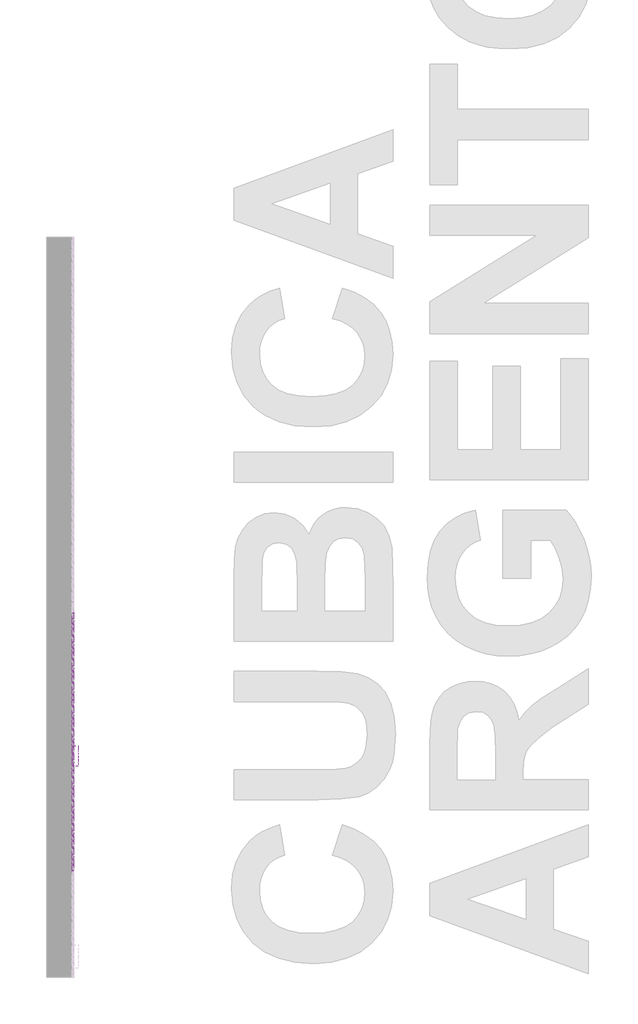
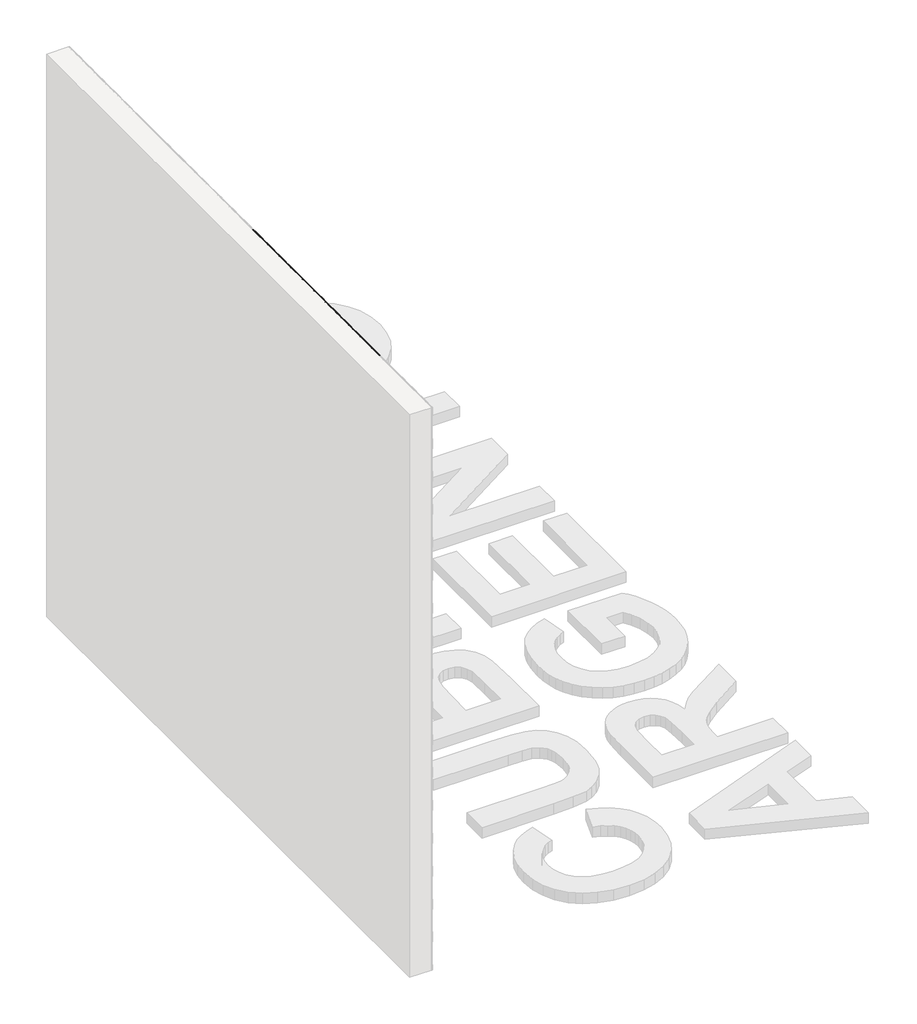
# One storey, part 12 of 121: 116 proxies.
"""IFC4 building model written with IfcOpenShell, lengths in millimetres."""

from ifc_helpers import new_model, si_unit, frame, origin, place, context, project, spatial, polyline, outline, extrude, transform, mapped, element, save
from components import generic_models_b2b2c5c1, generic_models_9bf73f6f, generic_models_5d175859, generic_models_65d4feed, generic_models_3c364290, generic_models_b652511d

model = new_model("IFC4")

# Units and contexts
model_context = context("Model", 3, world=origin())
ifc_project = project(units=[si_unit("LENGTHUNIT", "METRE", prefix="MILLI")], contexts=[model_context])

# Site, building, storey
site = spatial("IfcSite", under=ifc_project)
building = spatial("IfcBuilding", under=site)
storey = spatial("IfcBuildingStorey", under=building, Name="PORTOBELLO - SHOWROOM", Elevation=0.0)

# Proxies
placement = place(None, origin())
generic_models_shape = generic_models_b2b2c5c1(model_context)
element("IfcBuildingElementProxy", 1, Name="PBSHOP - CUBICA ARGENTO 4,8X8,3 : CUBICA ARGENTO - POSIÇÃO 01", ObjectType="PBSHOP - CUBICA ARGENTO 4,8X8,3 : CUBICA ARGENTO - POSIÇÃO 01", at=placement, inside=storey, context=model_context, shape_type="MappedRepresentation", body=[
    mapped(generic_models_shape, transform((150369.5341846, -4950.0239465, 39.4221668), x_axis=(0.0, 1.0, 0.0), y_axis=(0.0, 0.0, 1.0), z_axis=(1.0, 0.0, 0.0))),
])
element("IfcBuildingElementProxy", 2, Name="PBSHOP - CUBICA ARGENTO 4,8X8,3 : CUBICA ARGENTO - POSIÇÃO 01", ObjectType="PBSHOP - CUBICA ARGENTO 4,8X8,3 : CUBICA ARGENTO - POSIÇÃO 01", at=placement, inside=storey, context=model_context, shape_type="MappedRepresentation", body=[
    mapped(generic_models_shape, transform((150369.5341846, -4859.1846773, 39.4221668), x_axis=(0.0, 1.0, 0.0), y_axis=(0.0, 0.0, 1.0), z_axis=(1.0, 0.0, 0.0))),
])
element("IfcBuildingElementProxy", 3, Name="PBSHOP - CUBICA ARGENTO 4,8X8,3 : CUBICA ARGENTO - POSIÇÃO 01", ObjectType="PBSHOP - CUBICA ARGENTO 4,8X8,3 : CUBICA ARGENTO - POSIÇÃO 01", at=placement, inside=storey, context=model_context, shape_type="MappedRepresentation", body=[
    mapped(generic_models_shape, transform((150369.5341846, -5949.2559082, 2565.3305948), x_axis=(0.0, 1.0, 0.0), y_axis=(0.0, 0.0, 1.0), z_axis=(1.0, 0.0, 0.0))),
])
element("IfcBuildingElementProxy", 4, Name="PBSHOP - CUBICA ARGENTO 4,8X8,3 : CUBICA ARGENTO - POSIÇÃO 01", ObjectType="PBSHOP - CUBICA ARGENTO 4,8X8,3 : CUBICA ARGENTO - POSIÇÃO 01", at=placement, inside=storey, context=model_context, shape_type="MappedRepresentation", body=[
    mapped(generic_models_shape, transform((150369.5341846, -5858.416639, 2565.3305948), x_axis=(0.0, 1.0, 0.0), y_axis=(0.0, 0.0, 1.0), z_axis=(1.0, 0.0, 0.0))),
])
element("IfcBuildingElementProxy", 5, Name="PBSHOP - CUBICA ARGENTO 4,8X8,3 : CUBICA ARGENTO - POSIÇÃO 01", ObjectType="PBSHOP - CUBICA ARGENTO 4,8X8,3 : CUBICA ARGENTO - POSIÇÃO 01", at=placement, inside=storey, context=model_context, shape_type="MappedRepresentation", body=[
    mapped(generic_models_shape, transform((150369.5341846, -5767.5773697, 2565.3305948), x_axis=(0.0, 1.0, 0.0), y_axis=(0.0, 0.0, 1.0), z_axis=(1.0, 0.0, 0.0))),
])
element("IfcBuildingElementProxy", 6, Name="PBSHOP - CUBICA ARGENTO 4,8X8,3 : CUBICA ARGENTO - POSIÇÃO 01", ObjectType="PBSHOP - CUBICA ARGENTO 4,8X8,3 : CUBICA ARGENTO - POSIÇÃO 01", at=placement, inside=storey, context=model_context, shape_type="MappedRepresentation", body=[
    mapped(generic_models_shape, transform((150369.5341846, -5676.7381005, 2565.3305948), x_axis=(0.0, 1.0, 0.0), y_axis=(0.0, 0.0, 1.0), z_axis=(1.0, 0.0, 0.0))),
])
element("IfcBuildingElementProxy", 7, Name="PBSHOP - CUBICA ARGENTO 4,8X8,3 : CUBICA ARGENTO - POSIÇÃO 01", ObjectType="PBSHOP - CUBICA ARGENTO 4,8X8,3 : CUBICA ARGENTO - POSIÇÃO 01", at=placement, inside=storey, context=model_context, shape_type="MappedRepresentation", body=[
    mapped(generic_models_shape, transform((150369.5341846, -5585.8988312, 2565.3305948), x_axis=(0.0, 1.0, 0.0), y_axis=(0.0, 0.0, 1.0), z_axis=(1.0, 0.0, 0.0))),
])
element("IfcBuildingElementProxy", 8, Name="PBSHOP - CUBICA ARGENTO 4,8X8,3 : CUBICA ARGENTO - POSIÇÃO 01", ObjectType="PBSHOP - CUBICA ARGENTO 4,8X8,3 : CUBICA ARGENTO - POSIÇÃO 01", at=placement, inside=storey, context=model_context, shape_type="MappedRepresentation", body=[
    mapped(generic_models_shape, transform((150369.5341846, -5495.059562, 2565.3305948), x_axis=(0.0, 1.0, 0.0), y_axis=(0.0, 0.0, 1.0), z_axis=(1.0, 0.0, 0.0))),
])
element("IfcBuildingElementProxy", 9, Name="PBSHOP - CUBICA ARGENTO 4,8X8,3 : CUBICA ARGENTO - POSIÇÃO 01", ObjectType="PBSHOP - CUBICA ARGENTO 4,8X8,3 : CUBICA ARGENTO - POSIÇÃO 01", at=placement, inside=storey, context=model_context, shape_type="MappedRepresentation", body=[
    mapped(generic_models_shape, transform((150369.5341846, -5404.2202927, 2565.3305948), x_axis=(0.0, 1.0, 0.0), y_axis=(0.0, 0.0, 1.0), z_axis=(1.0, 0.0, 0.0))),
])
element("IfcBuildingElementProxy", 10, Name="PBSHOP - CUBICA ARGENTO 4,8X8,3 : CUBICA ARGENTO - POSIÇÃO 01", ObjectType="PBSHOP - CUBICA ARGENTO 4,8X8,3 : CUBICA ARGENTO - POSIÇÃO 01", at=placement, inside=storey, context=model_context, shape_type="MappedRepresentation", body=[
    mapped(generic_models_shape, transform((150369.5341846, -5313.3810235, 2565.3305948), x_axis=(0.0, 1.0, 0.0), y_axis=(0.0, 0.0, 1.0), z_axis=(1.0, 0.0, 0.0))),
])
element("IfcBuildingElementProxy", 11, Name="PBSHOP - CUBICA ARGENTO 4,8X8,3 : CUBICA ARGENTO - POSIÇÃO 01", ObjectType="PBSHOP - CUBICA ARGENTO 4,8X8,3 : CUBICA ARGENTO - POSIÇÃO 01", at=placement, inside=storey, context=model_context, shape_type="MappedRepresentation", body=[
    mapped(generic_models_shape, transform((150369.5341846, -5222.5417543, 2565.3305948), x_axis=(0.0, 1.0, 0.0), y_axis=(0.0, 0.0, 1.0), z_axis=(1.0, 0.0, 0.0))),
])
element("IfcBuildingElementProxy", 12, Name="PBSHOP - CUBICA ARGENTO 4,8X8,3 : CUBICA ARGENTO - POSIÇÃO 01", ObjectType="PBSHOP - CUBICA ARGENTO 4,8X8,3 : CUBICA ARGENTO - POSIÇÃO 01", at=placement, inside=storey, context=model_context, shape_type="MappedRepresentation", body=[
    mapped(generic_models_shape, transform((150369.5341846, -5131.702485, 2565.3305948), x_axis=(0.0, 1.0, 0.0), y_axis=(0.0, 0.0, 1.0), z_axis=(1.0, 0.0, 0.0))),
])
element("IfcBuildingElementProxy", 13, Name="PBSHOP - CUBICA ARGENTO 4,8X8,3 : CUBICA ARGENTO - POSIÇÃO 01", ObjectType="PBSHOP - CUBICA ARGENTO 4,8X8,3 : CUBICA ARGENTO - POSIÇÃO 01", at=placement, inside=storey, context=model_context, shape_type="MappedRepresentation", body=[
    mapped(generic_models_shape, transform((150369.5341846, -5040.8632158, 2565.3305948), x_axis=(0.0, 1.0, 0.0), y_axis=(0.0, 0.0, 1.0), z_axis=(1.0, 0.0, 0.0))),
])
element("IfcBuildingElementProxy", 14, Name="PBSHOP - CUBICA ARGENTO 4,8X8,3 : CUBICA ARGENTO - POSIÇÃO 01", ObjectType="PBSHOP - CUBICA ARGENTO 4,8X8,3 : CUBICA ARGENTO - POSIÇÃO 01", at=placement, inside=storey, context=model_context, shape_type="MappedRepresentation", body=[
    mapped(generic_models_shape, transform((150369.5341846, -5994.6755428, 2644.2652332), x_axis=(0.0, 1.0, 0.0), y_axis=(0.0, 0.0, 1.0), z_axis=(1.0, 0.0, 0.0))),
])
element("IfcBuildingElementProxy", 15, Name="PBSHOP - CUBICA ARGENTO 4,8X8,3 : CUBICA ARGENTO - POSIÇÃO 01", ObjectType="PBSHOP - CUBICA ARGENTO 4,8X8,3 : CUBICA ARGENTO - POSIÇÃO 01", at=placement, inside=storey, context=model_context, shape_type="MappedRepresentation", body=[
    mapped(generic_models_shape, transform((150369.5341846, -5903.8362736, 2644.2652332), x_axis=(0.0, 1.0, 0.0), y_axis=(0.0, 0.0, 1.0), z_axis=(1.0, 0.0, 0.0))),
])
element("IfcBuildingElementProxy", 16, Name="PBSHOP - CUBICA ARGENTO 4,8X8,3 : CUBICA ARGENTO - POSIÇÃO 01", ObjectType="PBSHOP - CUBICA ARGENTO 4,8X8,3 : CUBICA ARGENTO - POSIÇÃO 01", at=placement, inside=storey, context=model_context, shape_type="MappedRepresentation", body=[
    mapped(generic_models_shape, transform((150369.5341846, -5812.9970043, 2644.2652332), x_axis=(0.0, 1.0, 0.0), y_axis=(0.0, 0.0, 1.0), z_axis=(1.0, 0.0, 0.0))),
])
element("IfcBuildingElementProxy", 17, Name="PBSHOP - CUBICA ARGENTO 4,8X8,3 : CUBICA ARGENTO - POSIÇÃO 01", ObjectType="PBSHOP - CUBICA ARGENTO 4,8X8,3 : CUBICA ARGENTO - POSIÇÃO 01", at=placement, inside=storey, context=model_context, shape_type="MappedRepresentation", body=[
    mapped(generic_models_shape, transform((150369.5341846, -5722.1577351, 2644.2652332), x_axis=(0.0, 1.0, 0.0), y_axis=(0.0, 0.0, 1.0), z_axis=(1.0, 0.0, 0.0))),
])
element("IfcBuildingElementProxy", 18, Name="PBSHOP - CUBICA ARGENTO 4,8X8,3 : CUBICA ARGENTO - POSIÇÃO 01", ObjectType="PBSHOP - CUBICA ARGENTO 4,8X8,3 : CUBICA ARGENTO - POSIÇÃO 01", at=placement, inside=storey, context=model_context, shape_type="MappedRepresentation", body=[
    mapped(generic_models_shape, transform((150369.5341846, -5631.3184659, 2644.2652332), x_axis=(0.0, 1.0, 0.0), y_axis=(0.0, 0.0, 1.0), z_axis=(1.0, 0.0, 0.0))),
])
element("IfcBuildingElementProxy", 19, Name="PBSHOP - CUBICA ARGENTO 4,8X8,3 : CUBICA ARGENTO - POSIÇÃO 01", ObjectType="PBSHOP - CUBICA ARGENTO 4,8X8,3 : CUBICA ARGENTO - POSIÇÃO 01", at=placement, inside=storey, context=model_context, shape_type="MappedRepresentation", body=[
    mapped(generic_models_shape, transform((150369.5341846, -5540.4791966, 2644.2652332), x_axis=(0.0, 1.0, 0.0), y_axis=(0.0, 0.0, 1.0), z_axis=(1.0, 0.0, 0.0))),
])
element("IfcBuildingElementProxy", 20, Name="PBSHOP - CUBICA ARGENTO 4,8X8,3 : CUBICA ARGENTO - POSIÇÃO 01", ObjectType="PBSHOP - CUBICA ARGENTO 4,8X8,3 : CUBICA ARGENTO - POSIÇÃO 01", at=placement, inside=storey, context=model_context, shape_type="MappedRepresentation", body=[
    mapped(generic_models_shape, transform((150369.5341846, -5449.6399274, 2644.2652332), x_axis=(0.0, 1.0, 0.0), y_axis=(0.0, 0.0, 1.0), z_axis=(1.0, 0.0, 0.0))),
])
element("IfcBuildingElementProxy", 21, Name="PBSHOP - CUBICA ARGENTO 4,8X8,3 : CUBICA ARGENTO - POSIÇÃO 01", ObjectType="PBSHOP - CUBICA ARGENTO 4,8X8,3 : CUBICA ARGENTO - POSIÇÃO 01", at=placement, inside=storey, context=model_context, shape_type="MappedRepresentation", body=[
    mapped(generic_models_shape, transform((150369.5341846, -5358.8006581, 2644.2652332), x_axis=(0.0, 1.0, 0.0), y_axis=(0.0, 0.0, 1.0), z_axis=(1.0, 0.0, 0.0))),
])
element("IfcBuildingElementProxy", 22, Name="PBSHOP - CUBICA ARGENTO 4,8X8,3 : CUBICA ARGENTO - POSIÇÃO 01", ObjectType="PBSHOP - CUBICA ARGENTO 4,8X8,3 : CUBICA ARGENTO - POSIÇÃO 01", at=placement, inside=storey, context=model_context, shape_type="MappedRepresentation", body=[
    mapped(generic_models_shape, transform((150369.5341846, -5267.9613889, 2644.2652332), x_axis=(0.0, 1.0, 0.0), y_axis=(0.0, 0.0, 1.0), z_axis=(1.0, 0.0, 0.0))),
])
element("IfcBuildingElementProxy", 23, Name="PBSHOP - CUBICA ARGENTO 4,8X8,3 : CUBICA ARGENTO - POSIÇÃO 01", ObjectType="PBSHOP - CUBICA ARGENTO 4,8X8,3 : CUBICA ARGENTO - POSIÇÃO 01", at=placement, inside=storey, context=model_context, shape_type="MappedRepresentation", body=[
    mapped(generic_models_shape, transform((150369.5341846, -5177.1221196, 2644.2652332), x_axis=(0.0, 1.0, 0.0), y_axis=(0.0, 0.0, 1.0), z_axis=(1.0, 0.0, 0.0))),
])
element("IfcBuildingElementProxy", 24, Name="PBSHOP - CUBICA ARGENTO 4,8X8,3 : CUBICA ARGENTO - POSIÇÃO 01", ObjectType="PBSHOP - CUBICA ARGENTO 4,8X8,3 : CUBICA ARGENTO - POSIÇÃO 01", at=placement, inside=storey, context=model_context, shape_type="MappedRepresentation", body=[
    mapped(generic_models_shape, transform((150369.5341846, -5086.2828504, 2644.2652332), x_axis=(0.0, 1.0, 0.0), y_axis=(0.0, 0.0, 1.0), z_axis=(1.0, 0.0, 0.0))),
])
generic_models_2_shape = generic_models_9bf73f6f(model_context)
element("IfcBuildingElementProxy", 25, Name="PBSHOP - CUBICA ARGENTO 4,8X8,3 : CUBICA ARGENTO - POSIÇÃO 03", ObjectType="PBSHOP - CUBICA ARGENTO 4,8X8,3 : CUBICA ARGENTO - POSIÇÃO 03", at=placement, inside=storey, context=model_context, shape_type="MappedRepresentation", body=[
    mapped(generic_models_2_shape, transform((150369.5341846, -5926.5439317, 2446.8874268), x_axis=(0.0, 1.0, 0.0), y_axis=(0.0, 0.0, 1.0), z_axis=(1.0, 0.0, 0.0))),
])
element("IfcBuildingElementProxy", 26, Name="PBSHOP - CUBICA ARGENTO 4,8X8,3 : CUBICA ARGENTO - POSIÇÃO 03", ObjectType="PBSHOP - CUBICA ARGENTO 4,8X8,3 : CUBICA ARGENTO - POSIÇÃO 03", at=placement, inside=storey, context=model_context, shape_type="MappedRepresentation", body=[
    mapped(generic_models_2_shape, transform((150369.5341846, -5835.7046625, 2446.8874268), x_axis=(0.0, 1.0, 0.0), y_axis=(0.0, 0.0, 1.0), z_axis=(1.0, 0.0, 0.0))),
])
element("IfcBuildingElementProxy", 27, Name="PBSHOP - CUBICA ARGENTO 4,8X8,3 : CUBICA ARGENTO - POSIÇÃO 03", ObjectType="PBSHOP - CUBICA ARGENTO 4,8X8,3 : CUBICA ARGENTO - POSIÇÃO 03", at=placement, inside=storey, context=model_context, shape_type="MappedRepresentation", body=[
    mapped(generic_models_2_shape, transform((150369.5341846, -5744.8653932, 2446.8874268), x_axis=(0.0, 1.0, 0.0), y_axis=(0.0, 0.0, 1.0), z_axis=(1.0, 0.0, 0.0))),
])
element("IfcBuildingElementProxy", 28, Name="PBSHOP - CUBICA ARGENTO 4,8X8,3 : CUBICA ARGENTO - POSIÇÃO 03", ObjectType="PBSHOP - CUBICA ARGENTO 4,8X8,3 : CUBICA ARGENTO - POSIÇÃO 03", at=placement, inside=storey, context=model_context, shape_type="MappedRepresentation", body=[
    mapped(generic_models_2_shape, transform((150369.5341846, -5654.026124, 2446.8874268), x_axis=(0.0, 1.0, 0.0), y_axis=(0.0, 0.0, 1.0), z_axis=(1.0, 0.0, 0.0))),
])
element("IfcBuildingElementProxy", 29, Name="PBSHOP - CUBICA ARGENTO 4,8X8,3 : CUBICA ARGENTO - POSIÇÃO 03", ObjectType="PBSHOP - CUBICA ARGENTO 4,8X8,3 : CUBICA ARGENTO - POSIÇÃO 03", at=placement, inside=storey, context=model_context, shape_type="MappedRepresentation", body=[
    mapped(generic_models_2_shape, transform((150369.5341846, -5563.1868548, 2446.8874268), x_axis=(0.0, 1.0, 0.0), y_axis=(0.0, 0.0, 1.0), z_axis=(1.0, 0.0, 0.0))),
])
element("IfcBuildingElementProxy", 30, Name="PBSHOP - CUBICA ARGENTO 4,8X8,3 : CUBICA ARGENTO - POSIÇÃO 03", ObjectType="PBSHOP - CUBICA ARGENTO 4,8X8,3 : CUBICA ARGENTO - POSIÇÃO 03", at=placement, inside=storey, context=model_context, shape_type="MappedRepresentation", body=[
    mapped(generic_models_2_shape, transform((150369.5341846, -5472.3475855, 2446.8874268), x_axis=(0.0, 1.0, 0.0), y_axis=(0.0, 0.0, 1.0), z_axis=(1.0, 0.0, 0.0))),
])
element("IfcBuildingElementProxy", 31, Name="PBSHOP - CUBICA ARGENTO 4,8X8,3 : CUBICA ARGENTO - POSIÇÃO 03", ObjectType="PBSHOP - CUBICA ARGENTO 4,8X8,3 : CUBICA ARGENTO - POSIÇÃO 03", at=placement, inside=storey, context=model_context, shape_type="MappedRepresentation", body=[
    mapped(generic_models_2_shape, transform((150369.5341846, -5381.5083163, 2446.8874268), x_axis=(0.0, 1.0, 0.0), y_axis=(0.0, 0.0, 1.0), z_axis=(1.0, 0.0, 0.0))),
])
element("IfcBuildingElementProxy", 32, Name="PBSHOP - CUBICA ARGENTO 4,8X8,3 : CUBICA ARGENTO - POSIÇÃO 03", ObjectType="PBSHOP - CUBICA ARGENTO 4,8X8,3 : CUBICA ARGENTO - POSIÇÃO 03", at=placement, inside=storey, context=model_context, shape_type="MappedRepresentation", body=[
    mapped(generic_models_2_shape, transform((150369.5341846, -5290.669047, 2446.8874268), x_axis=(0.0, 1.0, 0.0), y_axis=(0.0, 0.0, 1.0), z_axis=(1.0, 0.0, 0.0))),
])
element("IfcBuildingElementProxy", 33, Name="PBSHOP - CUBICA ARGENTO 4,8X8,3 : CUBICA ARGENTO - POSIÇÃO 03", ObjectType="PBSHOP - CUBICA ARGENTO 4,8X8,3 : CUBICA ARGENTO - POSIÇÃO 03", at=placement, inside=storey, context=model_context, shape_type="MappedRepresentation", body=[
    mapped(generic_models_2_shape, transform((150369.5341846, -5199.8297778, 2446.8874268), x_axis=(0.0, 1.0, 0.0), y_axis=(0.0, 0.0, 1.0), z_axis=(1.0, 0.0, 0.0))),
])
element("IfcBuildingElementProxy", 34, Name="PBSHOP - CUBICA ARGENTO 4,8X8,3 : CUBICA ARGENTO - POSIÇÃO 03", ObjectType="PBSHOP - CUBICA ARGENTO 4,8X8,3 : CUBICA ARGENTO - POSIÇÃO 03", at=placement, inside=storey, context=model_context, shape_type="MappedRepresentation", body=[
    mapped(generic_models_2_shape, transform((150369.5341846, -5108.9905085, 2446.8874268), x_axis=(0.0, 1.0, 0.0), y_axis=(0.0, 0.0, 1.0), z_axis=(1.0, 0.0, 0.0))),
])
element("IfcBuildingElementProxy", 35, Name="PBSHOP - CUBICA ARGENTO 4,8X8,3 : CUBICA ARGENTO - POSIÇÃO 03", ObjectType="PBSHOP - CUBICA ARGENTO 4,8X8,3 : CUBICA ARGENTO - POSIÇÃO 03", at=placement, inside=storey, context=model_context, shape_type="MappedRepresentation", body=[
    mapped(generic_models_2_shape, transform((150369.5341846, -5018.1512393, 2446.8874268), x_axis=(0.0, 1.0, 0.0), y_axis=(0.0, 0.0, 1.0), z_axis=(1.0, 0.0, 0.0))),
])
element("IfcBuildingElementProxy", 36, Name="PBSHOP - CUBICA ARGENTO 4,8X8,3 : CUBICA ARGENTO - POSIÇÃO 03", ObjectType="PBSHOP - CUBICA ARGENTO 4,8X8,3 : CUBICA ARGENTO - POSIÇÃO 03", at=placement, inside=storey, context=model_context, shape_type="MappedRepresentation", body=[
    mapped(generic_models_2_shape, transform((150369.5341846, -5971.9635664, 2525.8220652), x_axis=(0.0, 1.0, 0.0), y_axis=(0.0, 0.0, 1.0), z_axis=(1.0, 0.0, 0.0))),
])
element("IfcBuildingElementProxy", 37, Name="PBSHOP - CUBICA ARGENTO 4,8X8,3 : CUBICA ARGENTO - POSIÇÃO 03", ObjectType="PBSHOP - CUBICA ARGENTO 4,8X8,3 : CUBICA ARGENTO - POSIÇÃO 03", at=placement, inside=storey, context=model_context, shape_type="MappedRepresentation", body=[
    mapped(generic_models_2_shape, transform((150369.5341846, -5881.1242971, 2525.8220652), x_axis=(0.0, 1.0, 0.0), y_axis=(0.0, 0.0, 1.0), z_axis=(1.0, 0.0, 0.0))),
])
element("IfcBuildingElementProxy", 38, Name="PBSHOP - CUBICA ARGENTO 4,8X8,3 : CUBICA ARGENTO - POSIÇÃO 03", ObjectType="PBSHOP - CUBICA ARGENTO 4,8X8,3 : CUBICA ARGENTO - POSIÇÃO 03", at=placement, inside=storey, context=model_context, shape_type="MappedRepresentation", body=[
    mapped(generic_models_2_shape, transform((150369.5341846, -5790.2850279, 2525.8220652), x_axis=(0.0, 1.0, 0.0), y_axis=(0.0, 0.0, 1.0), z_axis=(1.0, 0.0, 0.0))),
])
element("IfcBuildingElementProxy", 39, Name="PBSHOP - CUBICA ARGENTO 4,8X8,3 : CUBICA ARGENTO - POSIÇÃO 03", ObjectType="PBSHOP - CUBICA ARGENTO 4,8X8,3 : CUBICA ARGENTO - POSIÇÃO 03", at=placement, inside=storey, context=model_context, shape_type="MappedRepresentation", body=[
    mapped(generic_models_2_shape, transform((150369.5341846, -5699.4457586, 2525.8220652), x_axis=(0.0, 1.0, 0.0), y_axis=(0.0, 0.0, 1.0), z_axis=(1.0, 0.0, 0.0))),
])
element("IfcBuildingElementProxy", 40, Name="PBSHOP - CUBICA ARGENTO 4,8X8,3 : CUBICA ARGENTO - POSIÇÃO 03", ObjectType="PBSHOP - CUBICA ARGENTO 4,8X8,3 : CUBICA ARGENTO - POSIÇÃO 03", at=placement, inside=storey, context=model_context, shape_type="MappedRepresentation", body=[
    mapped(generic_models_2_shape, transform((150369.5341846, -5608.6064894, 2525.8220652), x_axis=(0.0, 1.0, 0.0), y_axis=(0.0, 0.0, 1.0), z_axis=(1.0, 0.0, 0.0))),
])
element("IfcBuildingElementProxy", 41, Name="PBSHOP - CUBICA ARGENTO 4,8X8,3 : CUBICA ARGENTO - POSIÇÃO 03", ObjectType="PBSHOP - CUBICA ARGENTO 4,8X8,3 : CUBICA ARGENTO - POSIÇÃO 03", at=placement, inside=storey, context=model_context, shape_type="MappedRepresentation", body=[
    mapped(generic_models_2_shape, transform((150369.5341846, -5517.7672201, 2525.8220652), x_axis=(0.0, 1.0, 0.0), y_axis=(0.0, 0.0, 1.0), z_axis=(1.0, 0.0, 0.0))),
])
element("IfcBuildingElementProxy", 42, Name="PBSHOP - CUBICA ARGENTO 4,8X8,3 : CUBICA ARGENTO - POSIÇÃO 03", ObjectType="PBSHOP - CUBICA ARGENTO 4,8X8,3 : CUBICA ARGENTO - POSIÇÃO 03", at=placement, inside=storey, context=model_context, shape_type="MappedRepresentation", body=[
    mapped(generic_models_2_shape, transform((150369.5341846, -5426.9279509, 2525.8220652), x_axis=(0.0, 1.0, 0.0), y_axis=(0.0, 0.0, 1.0), z_axis=(1.0, 0.0, 0.0))),
])
element("IfcBuildingElementProxy", 43, Name="PBSHOP - CUBICA ARGENTO 4,8X8,3 : CUBICA ARGENTO - POSIÇÃO 03", ObjectType="PBSHOP - CUBICA ARGENTO 4,8X8,3 : CUBICA ARGENTO - POSIÇÃO 03", at=placement, inside=storey, context=model_context, shape_type="MappedRepresentation", body=[
    mapped(generic_models_2_shape, transform((150369.5341846, -5336.0886816, 2525.8220652), x_axis=(0.0, 1.0, 0.0), y_axis=(0.0, 0.0, 1.0), z_axis=(1.0, 0.0, 0.0))),
])
element("IfcBuildingElementProxy", 44, Name="PBSHOP - CUBICA ARGENTO 4,8X8,3 : CUBICA ARGENTO - POSIÇÃO 03", ObjectType="PBSHOP - CUBICA ARGENTO 4,8X8,3 : CUBICA ARGENTO - POSIÇÃO 03", at=placement, inside=storey, context=model_context, shape_type="MappedRepresentation", body=[
    mapped(generic_models_2_shape, transform((150369.5341846, -5245.2494124, 2525.8220652), x_axis=(0.0, 1.0, 0.0), y_axis=(0.0, 0.0, 1.0), z_axis=(1.0, 0.0, 0.0))),
])
element("IfcBuildingElementProxy", 45, Name="PBSHOP - CUBICA ARGENTO 4,8X8,3 : CUBICA ARGENTO - POSIÇÃO 03", ObjectType="PBSHOP - CUBICA ARGENTO 4,8X8,3 : CUBICA ARGENTO - POSIÇÃO 03", at=placement, inside=storey, context=model_context, shape_type="MappedRepresentation", body=[
    mapped(generic_models_2_shape, transform((150369.5341846, -5154.4101432, 2525.8220652), x_axis=(0.0, 1.0, 0.0), y_axis=(0.0, 0.0, 1.0), z_axis=(1.0, 0.0, 0.0))),
])
element("IfcBuildingElementProxy", 46, Name="PBSHOP - CUBICA ARGENTO 4,8X8,3 : CUBICA ARGENTO - POSIÇÃO 03", ObjectType="PBSHOP - CUBICA ARGENTO 4,8X8,3 : CUBICA ARGENTO - POSIÇÃO 03", at=placement, inside=storey, context=model_context, shape_type="MappedRepresentation", body=[
    mapped(generic_models_2_shape, transform((150369.5341846, -5063.5708739, 2525.8220652), x_axis=(0.0, 1.0, 0.0), y_axis=(0.0, 0.0, 1.0), z_axis=(1.0, 0.0, 0.0))),
])
element("IfcBuildingElementProxy", 47, Name="PBSHOP - CUBICA ARGENTO 4,8X8,3 : CUBICA ARGENTO - POSIÇÃO 03", ObjectType="PBSHOP - CUBICA ARGENTO 4,8X8,3 : CUBICA ARGENTO - POSIÇÃO 03", at=placement, inside=storey, context=model_context, shape_type="MappedRepresentation", body=[
    mapped(generic_models_2_shape, transform((150369.5341846, -5926.5439317, 2604.7567035), x_axis=(0.0, 1.0, 0.0), y_axis=(0.0, 0.0, 1.0), z_axis=(1.0, 0.0, 0.0))),
])
element("IfcBuildingElementProxy", 48, Name="PBSHOP - CUBICA ARGENTO 4,8X8,3 : CUBICA ARGENTO - POSIÇÃO 03", ObjectType="PBSHOP - CUBICA ARGENTO 4,8X8,3 : CUBICA ARGENTO - POSIÇÃO 03", at=placement, inside=storey, context=model_context, shape_type="MappedRepresentation", body=[
    mapped(generic_models_2_shape, transform((150369.5341846, -5835.7046625, 2604.7567035), x_axis=(0.0, 1.0, 0.0), y_axis=(0.0, 0.0, 1.0), z_axis=(1.0, 0.0, 0.0))),
])
element("IfcBuildingElementProxy", 49, Name="PBSHOP - CUBICA ARGENTO 4,8X8,3 : CUBICA ARGENTO - POSIÇÃO 03", ObjectType="PBSHOP - CUBICA ARGENTO 4,8X8,3 : CUBICA ARGENTO - POSIÇÃO 03", at=placement, inside=storey, context=model_context, shape_type="MappedRepresentation", body=[
    mapped(generic_models_2_shape, transform((150369.5341846, -5744.8653932, 2604.7567035), x_axis=(0.0, 1.0, 0.0), y_axis=(0.0, 0.0, 1.0), z_axis=(1.0, 0.0, 0.0))),
])
element("IfcBuildingElementProxy", 50, Name="PBSHOP - CUBICA ARGENTO 4,8X8,3 : CUBICA ARGENTO - POSIÇÃO 03", ObjectType="PBSHOP - CUBICA ARGENTO 4,8X8,3 : CUBICA ARGENTO - POSIÇÃO 03", at=placement, inside=storey, context=model_context, shape_type="MappedRepresentation", body=[
    mapped(generic_models_2_shape, transform((150369.5341846, -5654.026124, 2604.7567035), x_axis=(0.0, 1.0, 0.0), y_axis=(0.0, 0.0, 1.0), z_axis=(1.0, 0.0, 0.0))),
])
element("IfcBuildingElementProxy", 51, Name="PBSHOP - CUBICA ARGENTO 4,8X8,3 : CUBICA ARGENTO - POSIÇÃO 03", ObjectType="PBSHOP - CUBICA ARGENTO 4,8X8,3 : CUBICA ARGENTO - POSIÇÃO 03", at=placement, inside=storey, context=model_context, shape_type="MappedRepresentation", body=[
    mapped(generic_models_2_shape, transform((150369.5341846, -5563.1868548, 2604.7567035), x_axis=(0.0, 1.0, 0.0), y_axis=(0.0, 0.0, 1.0), z_axis=(1.0, 0.0, 0.0))),
])
element("IfcBuildingElementProxy", 52, Name="PBSHOP - CUBICA ARGENTO 4,8X8,3 : CUBICA ARGENTO - POSIÇÃO 03", ObjectType="PBSHOP - CUBICA ARGENTO 4,8X8,3 : CUBICA ARGENTO - POSIÇÃO 03", at=placement, inside=storey, context=model_context, shape_type="MappedRepresentation", body=[
    mapped(generic_models_2_shape, transform((150369.5341846, -5472.3475855, 2604.7567035), x_axis=(0.0, 1.0, 0.0), y_axis=(0.0, 0.0, 1.0), z_axis=(1.0, 0.0, 0.0))),
])
element("IfcBuildingElementProxy", 53, Name="PBSHOP - CUBICA ARGENTO 4,8X8,3 : CUBICA ARGENTO - POSIÇÃO 03", ObjectType="PBSHOP - CUBICA ARGENTO 4,8X8,3 : CUBICA ARGENTO - POSIÇÃO 03", at=placement, inside=storey, context=model_context, shape_type="MappedRepresentation", body=[
    mapped(generic_models_2_shape, transform((150369.5341846, -5381.5083163, 2604.7567035), x_axis=(0.0, 1.0, 0.0), y_axis=(0.0, 0.0, 1.0), z_axis=(1.0, 0.0, 0.0))),
])
element("IfcBuildingElementProxy", 54, Name="PBSHOP - CUBICA ARGENTO 4,8X8,3 : CUBICA ARGENTO - POSIÇÃO 03", ObjectType="PBSHOP - CUBICA ARGENTO 4,8X8,3 : CUBICA ARGENTO - POSIÇÃO 03", at=placement, inside=storey, context=model_context, shape_type="MappedRepresentation", body=[
    mapped(generic_models_2_shape, transform((150369.5341846, -5290.669047, 2604.7567035), x_axis=(0.0, 1.0, 0.0), y_axis=(0.0, 0.0, 1.0), z_axis=(1.0, 0.0, 0.0))),
])
element("IfcBuildingElementProxy", 55, Name="PBSHOP - CUBICA ARGENTO 4,8X8,3 : CUBICA ARGENTO - POSIÇÃO 03", ObjectType="PBSHOP - CUBICA ARGENTO 4,8X8,3 : CUBICA ARGENTO - POSIÇÃO 03", at=placement, inside=storey, context=model_context, shape_type="MappedRepresentation", body=[
    mapped(generic_models_2_shape, transform((150369.5341846, -5199.8297778, 2604.7567035), x_axis=(0.0, 1.0, 0.0), y_axis=(0.0, 0.0, 1.0), z_axis=(1.0, 0.0, 0.0))),
])
element("IfcBuildingElementProxy", 56, Name="PBSHOP - CUBICA ARGENTO 4,8X8,3 : CUBICA ARGENTO - POSIÇÃO 03", ObjectType="PBSHOP - CUBICA ARGENTO 4,8X8,3 : CUBICA ARGENTO - POSIÇÃO 03", at=placement, inside=storey, context=model_context, shape_type="MappedRepresentation", body=[
    mapped(generic_models_2_shape, transform((150369.5341846, -5108.9905085, 2604.7567035), x_axis=(0.0, 1.0, 0.0), y_axis=(0.0, 0.0, 1.0), z_axis=(1.0, 0.0, 0.0))),
])
element("IfcBuildingElementProxy", 57, Name="PBSHOP - CUBICA ARGENTO 4,8X8,3 : CUBICA ARGENTO - POSIÇÃO 03", ObjectType="PBSHOP - CUBICA ARGENTO 4,8X8,3 : CUBICA ARGENTO - POSIÇÃO 03", at=placement, inside=storey, context=model_context, shape_type="MappedRepresentation", body=[
    mapped(generic_models_2_shape, transform((150369.5341846, -5018.1512393, 2604.7567035), x_axis=(0.0, 1.0, 0.0), y_axis=(0.0, 0.0, 1.0), z_axis=(1.0, 0.0, 0.0))),
])
generic_models_3_shape = generic_models_5d175859(model_context)
element("IfcBuildingElementProxy", 58, Name="PBSHOP - CUBICA ARGENTO 4,8X8,3 : CUBICA ARGENTO - POSIÇÃO 01", ObjectType="PBSHOP - CUBICA ARGENTO 4,8X8,3 : CUBICA ARGENTO - POSIÇÃO 01", at=placement, inside=storey, context=model_context, shape_type="MappedRepresentation", body=[
    mapped(generic_models_3_shape, transform((150369.5341846, -4995.4392628, 39.4221668), x_axis=(0.0, -1.0, 0.0), y_axis=(0.0, 0.0, -1.0), z_axis=(1.0, 0.0, 0.0))),
])
element("IfcBuildingElementProxy", 59, Name="PBSHOP - CUBICA ARGENTO 4,8X8,3 : CUBICA ARGENTO - POSIÇÃO 01", ObjectType="PBSHOP - CUBICA ARGENTO 4,8X8,3 : CUBICA ARGENTO - POSIÇÃO 01", at=placement, inside=storey, context=model_context, shape_type="MappedRepresentation", body=[
    mapped(generic_models_3_shape, transform((150369.5341846, -4904.5999936, 39.4221668), x_axis=(0.0, -1.0, 0.0), y_axis=(0.0, 0.0, -1.0), z_axis=(1.0, 0.0, 0.0))),
])
element("IfcBuildingElementProxy", 60, Name="PBSHOP - CUBICA ARGENTO 4,8X8,3 : CUBICA ARGENTO - POSIÇÃO 01", ObjectType="PBSHOP - CUBICA ARGENTO 4,8X8,3 : CUBICA ARGENTO - POSIÇÃO 01", at=placement, inside=storey, context=model_context, shape_type="MappedRepresentation", body=[
    mapped(generic_models_3_shape, transform((150369.5341846, -5040.8588974, 2486.3959564), x_axis=(0.0, -1.0, 0.0), y_axis=(0.0, 0.0, -1.0), z_axis=(1.0, 0.0, 0.0))),
])
element("IfcBuildingElementProxy", 61, Name="PBSHOP - CUBICA ARGENTO 4,8X8,3 : CUBICA ARGENTO - POSIÇÃO 01", ObjectType="PBSHOP - CUBICA ARGENTO 4,8X8,3 : CUBICA ARGENTO - POSIÇÃO 01", at=placement, inside=storey, context=model_context, shape_type="MappedRepresentation", body=[
    mapped(generic_models_3_shape, transform((150369.5341846, -5994.6712245, 2565.3305948), x_axis=(0.0, -1.0, 0.0), y_axis=(0.0, 0.0, -1.0), z_axis=(1.0, 0.0, 0.0))),
])
element("IfcBuildingElementProxy", 62, Name="PBSHOP - CUBICA ARGENTO 4,8X8,3 : CUBICA ARGENTO - POSIÇÃO 01", ObjectType="PBSHOP - CUBICA ARGENTO 4,8X8,3 : CUBICA ARGENTO - POSIÇÃO 01", at=placement, inside=storey, context=model_context, shape_type="MappedRepresentation", body=[
    mapped(generic_models_3_shape, transform((150369.5341846, -5903.8319553, 2565.3305948), x_axis=(0.0, -1.0, 0.0), y_axis=(0.0, 0.0, -1.0), z_axis=(1.0, 0.0, 0.0))),
])
element("IfcBuildingElementProxy", 63, Name="PBSHOP - CUBICA ARGENTO 4,8X8,3 : CUBICA ARGENTO - POSIÇÃO 01", ObjectType="PBSHOP - CUBICA ARGENTO 4,8X8,3 : CUBICA ARGENTO - POSIÇÃO 01", at=placement, inside=storey, context=model_context, shape_type="MappedRepresentation", body=[
    mapped(generic_models_3_shape, transform((150369.5341846, -5812.992686, 2565.3305948), x_axis=(0.0, -1.0, 0.0), y_axis=(0.0, 0.0, -1.0), z_axis=(1.0, 0.0, 0.0))),
])
element("IfcBuildingElementProxy", 64, Name="PBSHOP - CUBICA ARGENTO 4,8X8,3 : CUBICA ARGENTO - POSIÇÃO 01", ObjectType="PBSHOP - CUBICA ARGENTO 4,8X8,3 : CUBICA ARGENTO - POSIÇÃO 01", at=placement, inside=storey, context=model_context, shape_type="MappedRepresentation", body=[
    mapped(generic_models_3_shape, transform((150369.5341846, -5722.1534168, 2565.3305948), x_axis=(0.0, -1.0, 0.0), y_axis=(0.0, 0.0, -1.0), z_axis=(1.0, 0.0, 0.0))),
])
element("IfcBuildingElementProxy", 65, Name="PBSHOP - CUBICA ARGENTO 4,8X8,3 : CUBICA ARGENTO - POSIÇÃO 01", ObjectType="PBSHOP - CUBICA ARGENTO 4,8X8,3 : CUBICA ARGENTO - POSIÇÃO 01", at=placement, inside=storey, context=model_context, shape_type="MappedRepresentation", body=[
    mapped(generic_models_3_shape, transform((150369.5341846, -5631.3141475, 2565.3305948), x_axis=(0.0, -1.0, 0.0), y_axis=(0.0, 0.0, -1.0), z_axis=(1.0, 0.0, 0.0))),
])
element("IfcBuildingElementProxy", 66, Name="PBSHOP - CUBICA ARGENTO 4,8X8,3 : CUBICA ARGENTO - POSIÇÃO 01", ObjectType="PBSHOP - CUBICA ARGENTO 4,8X8,3 : CUBICA ARGENTO - POSIÇÃO 01", at=placement, inside=storey, context=model_context, shape_type="MappedRepresentation", body=[
    mapped(generic_models_3_shape, transform((150369.5341846, -5540.4748783, 2565.3305948), x_axis=(0.0, -1.0, 0.0), y_axis=(0.0, 0.0, -1.0), z_axis=(1.0, 0.0, 0.0))),
])
element("IfcBuildingElementProxy", 67, Name="PBSHOP - CUBICA ARGENTO 4,8X8,3 : CUBICA ARGENTO - POSIÇÃO 01", ObjectType="PBSHOP - CUBICA ARGENTO 4,8X8,3 : CUBICA ARGENTO - POSIÇÃO 01", at=placement, inside=storey, context=model_context, shape_type="MappedRepresentation", body=[
    mapped(generic_models_3_shape, transform((150369.5341846, -5449.635609, 2565.3305948), x_axis=(0.0, -1.0, 0.0), y_axis=(0.0, 0.0, -1.0), z_axis=(1.0, 0.0, 0.0))),
])
element("IfcBuildingElementProxy", 68, Name="PBSHOP - CUBICA ARGENTO 4,8X8,3 : CUBICA ARGENTO - POSIÇÃO 01", ObjectType="PBSHOP - CUBICA ARGENTO 4,8X8,3 : CUBICA ARGENTO - POSIÇÃO 01", at=placement, inside=storey, context=model_context, shape_type="MappedRepresentation", body=[
    mapped(generic_models_3_shape, transform((150369.5341846, -5358.7963398, 2565.3305948), x_axis=(0.0, -1.0, 0.0), y_axis=(0.0, 0.0, -1.0), z_axis=(1.0, 0.0, 0.0))),
])
element("IfcBuildingElementProxy", 69, Name="PBSHOP - CUBICA ARGENTO 4,8X8,3 : CUBICA ARGENTO - POSIÇÃO 01", ObjectType="PBSHOP - CUBICA ARGENTO 4,8X8,3 : CUBICA ARGENTO - POSIÇÃO 01", at=placement, inside=storey, context=model_context, shape_type="MappedRepresentation", body=[
    mapped(generic_models_3_shape, transform((150369.5341846, -5267.9570705, 2565.3305948), x_axis=(0.0, -1.0, 0.0), y_axis=(0.0, 0.0, -1.0), z_axis=(1.0, 0.0, 0.0))),
])
element("IfcBuildingElementProxy", 70, Name="PBSHOP - CUBICA ARGENTO 4,8X8,3 : CUBICA ARGENTO - POSIÇÃO 01", ObjectType="PBSHOP - CUBICA ARGENTO 4,8X8,3 : CUBICA ARGENTO - POSIÇÃO 01", at=placement, inside=storey, context=model_context, shape_type="MappedRepresentation", body=[
    mapped(generic_models_3_shape, transform((150369.5341846, -5177.1178013, 2565.3305948), x_axis=(0.0, -1.0, 0.0), y_axis=(0.0, 0.0, -1.0), z_axis=(1.0, 0.0, 0.0))),
])
element("IfcBuildingElementProxy", 71, Name="PBSHOP - CUBICA ARGENTO 4,8X8,3 : CUBICA ARGENTO - POSIÇÃO 01", ObjectType="PBSHOP - CUBICA ARGENTO 4,8X8,3 : CUBICA ARGENTO - POSIÇÃO 01", at=placement, inside=storey, context=model_context, shape_type="MappedRepresentation", body=[
    mapped(generic_models_3_shape, transform((150369.5341846, -5086.2785321, 2565.3305948), x_axis=(0.0, -1.0, 0.0), y_axis=(0.0, 0.0, -1.0), z_axis=(1.0, 0.0, 0.0))),
])
element("IfcBuildingElementProxy", 72, Name="PBSHOP - CUBICA ARGENTO 4,8X8,3 : CUBICA ARGENTO - POSIÇÃO 01", ObjectType="PBSHOP - CUBICA ARGENTO 4,8X8,3 : CUBICA ARGENTO - POSIÇÃO 01", at=placement, inside=storey, context=model_context, shape_type="MappedRepresentation", body=[
    mapped(generic_models_3_shape, transform((150369.5341846, -5949.2515899, 2644.2652332), x_axis=(0.0, -1.0, 0.0), y_axis=(0.0, 0.0, -1.0), z_axis=(1.0, 0.0, 0.0))),
])
element("IfcBuildingElementProxy", 73, Name="PBSHOP - CUBICA ARGENTO 4,8X8,3 : CUBICA ARGENTO - POSIÇÃO 01", ObjectType="PBSHOP - CUBICA ARGENTO 4,8X8,3 : CUBICA ARGENTO - POSIÇÃO 01", at=placement, inside=storey, context=model_context, shape_type="MappedRepresentation", body=[
    mapped(generic_models_3_shape, transform((150369.5341846, -5858.4123206, 2644.2652332), x_axis=(0.0, -1.0, 0.0), y_axis=(0.0, 0.0, -1.0), z_axis=(1.0, 0.0, 0.0))),
])
element("IfcBuildingElementProxy", 74, Name="PBSHOP - CUBICA ARGENTO 4,8X8,3 : CUBICA ARGENTO - POSIÇÃO 01", ObjectType="PBSHOP - CUBICA ARGENTO 4,8X8,3 : CUBICA ARGENTO - POSIÇÃO 01", at=placement, inside=storey, context=model_context, shape_type="MappedRepresentation", body=[
    mapped(generic_models_3_shape, transform((150369.5341846, -5767.5730514, 2644.2652332), x_axis=(0.0, -1.0, 0.0), y_axis=(0.0, 0.0, -1.0), z_axis=(1.0, 0.0, 0.0))),
])
element("IfcBuildingElementProxy", 75, Name="PBSHOP - CUBICA ARGENTO 4,8X8,3 : CUBICA ARGENTO - POSIÇÃO 01", ObjectType="PBSHOP - CUBICA ARGENTO 4,8X8,3 : CUBICA ARGENTO - POSIÇÃO 01", at=placement, inside=storey, context=model_context, shape_type="MappedRepresentation", body=[
    mapped(generic_models_3_shape, transform((150369.5341846, -5676.7337821, 2644.2652332), x_axis=(0.0, -1.0, 0.0), y_axis=(0.0, 0.0, -1.0), z_axis=(1.0, 0.0, 0.0))),
])
element("IfcBuildingElementProxy", 76, Name="PBSHOP - CUBICA ARGENTO 4,8X8,3 : CUBICA ARGENTO - POSIÇÃO 01", ObjectType="PBSHOP - CUBICA ARGENTO 4,8X8,3 : CUBICA ARGENTO - POSIÇÃO 01", at=placement, inside=storey, context=model_context, shape_type="MappedRepresentation", body=[
    mapped(generic_models_3_shape, transform((150369.5341846, -5585.8945129, 2644.2652332), x_axis=(0.0, -1.0, 0.0), y_axis=(0.0, 0.0, -1.0), z_axis=(1.0, 0.0, 0.0))),
])
element("IfcBuildingElementProxy", 77, Name="PBSHOP - CUBICA ARGENTO 4,8X8,3 : CUBICA ARGENTO - POSIÇÃO 01", ObjectType="PBSHOP - CUBICA ARGENTO 4,8X8,3 : CUBICA ARGENTO - POSIÇÃO 01", at=placement, inside=storey, context=model_context, shape_type="MappedRepresentation", body=[
    mapped(generic_models_3_shape, transform((150369.5341846, -5495.0552437, 2644.2652332), x_axis=(0.0, -1.0, 0.0), y_axis=(0.0, 0.0, -1.0), z_axis=(1.0, 0.0, 0.0))),
])
element("IfcBuildingElementProxy", 78, Name="PBSHOP - CUBICA ARGENTO 4,8X8,3 : CUBICA ARGENTO - POSIÇÃO 01", ObjectType="PBSHOP - CUBICA ARGENTO 4,8X8,3 : CUBICA ARGENTO - POSIÇÃO 01", at=placement, inside=storey, context=model_context, shape_type="MappedRepresentation", body=[
    mapped(generic_models_3_shape, transform((150369.5341846, -5404.2159744, 2644.2652332), x_axis=(0.0, -1.0, 0.0), y_axis=(0.0, 0.0, -1.0), z_axis=(1.0, 0.0, 0.0))),
])
element("IfcBuildingElementProxy", 79, Name="PBSHOP - CUBICA ARGENTO 4,8X8,3 : CUBICA ARGENTO - POSIÇÃO 01", ObjectType="PBSHOP - CUBICA ARGENTO 4,8X8,3 : CUBICA ARGENTO - POSIÇÃO 01", at=placement, inside=storey, context=model_context, shape_type="MappedRepresentation", body=[
    mapped(generic_models_3_shape, transform((150369.5341846, -5313.3767052, 2644.2652332), x_axis=(0.0, -1.0, 0.0), y_axis=(0.0, 0.0, -1.0), z_axis=(1.0, 0.0, 0.0))),
])
element("IfcBuildingElementProxy", 80, Name="PBSHOP - CUBICA ARGENTO 4,8X8,3 : CUBICA ARGENTO - POSIÇÃO 01", ObjectType="PBSHOP - CUBICA ARGENTO 4,8X8,3 : CUBICA ARGENTO - POSIÇÃO 01", at=placement, inside=storey, context=model_context, shape_type="MappedRepresentation", body=[
    mapped(generic_models_3_shape, transform((150369.5341846, -5222.5374359, 2644.2652332), x_axis=(0.0, -1.0, 0.0), y_axis=(0.0, 0.0, -1.0), z_axis=(1.0, 0.0, 0.0))),
])
element("IfcBuildingElementProxy", 81, Name="PBSHOP - CUBICA ARGENTO 4,8X8,3 : CUBICA ARGENTO - POSIÇÃO 01", ObjectType="PBSHOP - CUBICA ARGENTO 4,8X8,3 : CUBICA ARGENTO - POSIÇÃO 01", at=placement, inside=storey, context=model_context, shape_type="MappedRepresentation", body=[
    mapped(generic_models_3_shape, transform((150369.5341846, -5131.6981667, 2644.2652332), x_axis=(0.0, -1.0, 0.0), y_axis=(0.0, 0.0, -1.0), z_axis=(1.0, 0.0, 0.0))),
])
element("IfcBuildingElementProxy", 82, Name="PBSHOP - CUBICA ARGENTO 4,8X8,3 : CUBICA ARGENTO - POSIÇÃO 01", ObjectType="PBSHOP - CUBICA ARGENTO 4,8X8,3 : CUBICA ARGENTO - POSIÇÃO 01", at=placement, inside=storey, context=model_context, shape_type="MappedRepresentation", body=[
    mapped(generic_models_3_shape, transform((150369.5341846, -5040.8588974, 2644.2652332), x_axis=(0.0, -1.0, 0.0), y_axis=(0.0, 0.0, -1.0), z_axis=(1.0, 0.0, 0.0))),
])
generic_models_4_shape = generic_models_65d4feed(model_context)
element("IfcBuildingElementProxy", 83, Name="PBSHOP - CUBICA ARGENTO 4,8X8,3 : CUBICA ARGENTO - POSIÇÃO 01", ObjectType="PBSHOP - CUBICA ARGENTO 4,8X8,3 : CUBICA ARGENTO - POSIÇÃO 01", at=placement, inside=storey, context=model_context, shape_type="MappedRepresentation", body=[
    mapped(generic_models_4_shape, transform((150369.5341846, -5949.2559082, 2723.1998715), x_axis=(0.0, 1.0, 0.0), y_axis=(0.0, 0.0, 1.0), z_axis=(1.0, 0.0, 0.0))),
])
element("IfcBuildingElementProxy", 84, Name="PBSHOP - CUBICA ARGENTO 4,8X8,3 : CUBICA ARGENTO - POSIÇÃO 01", ObjectType="PBSHOP - CUBICA ARGENTO 4,8X8,3 : CUBICA ARGENTO - POSIÇÃO 01", at=placement, inside=storey, context=model_context, shape_type="MappedRepresentation", body=[
    mapped(generic_models_4_shape, transform((150369.5341846, -5858.416639, 2723.1998715), x_axis=(0.0, 1.0, 0.0), y_axis=(0.0, 0.0, 1.0), z_axis=(1.0, 0.0, 0.0))),
])
element("IfcBuildingElementProxy", 85, Name="PBSHOP - CUBICA ARGENTO 4,8X8,3 : CUBICA ARGENTO - POSIÇÃO 01", ObjectType="PBSHOP - CUBICA ARGENTO 4,8X8,3 : CUBICA ARGENTO - POSIÇÃO 01", at=placement, inside=storey, context=model_context, shape_type="MappedRepresentation", body=[
    mapped(generic_models_4_shape, transform((150369.5341846, -5767.5773697, 2723.1998715), x_axis=(0.0, 1.0, 0.0), y_axis=(0.0, 0.0, 1.0), z_axis=(1.0, 0.0, 0.0))),
])
element("IfcBuildingElementProxy", 86, Name="PBSHOP - CUBICA ARGENTO 4,8X8,3 : CUBICA ARGENTO - POSIÇÃO 01", ObjectType="PBSHOP - CUBICA ARGENTO 4,8X8,3 : CUBICA ARGENTO - POSIÇÃO 01", at=placement, inside=storey, context=model_context, shape_type="MappedRepresentation", body=[
    mapped(generic_models_4_shape, transform((150369.5341846, -5676.7381005, 2723.1998715), x_axis=(0.0, 1.0, 0.0), y_axis=(0.0, 0.0, 1.0), z_axis=(1.0, 0.0, 0.0))),
])
element("IfcBuildingElementProxy", 87, Name="PBSHOP - CUBICA ARGENTO 4,8X8,3 : CUBICA ARGENTO - POSIÇÃO 01", ObjectType="PBSHOP - CUBICA ARGENTO 4,8X8,3 : CUBICA ARGENTO - POSIÇÃO 01", at=placement, inside=storey, context=model_context, shape_type="MappedRepresentation", body=[
    mapped(generic_models_4_shape, transform((150369.5341846, -5585.8988312, 2723.1998715), x_axis=(0.0, 1.0, 0.0), y_axis=(0.0, 0.0, 1.0), z_axis=(1.0, 0.0, 0.0))),
])
element("IfcBuildingElementProxy", 88, Name="PBSHOP - CUBICA ARGENTO 4,8X8,3 : CUBICA ARGENTO - POSIÇÃO 01", ObjectType="PBSHOP - CUBICA ARGENTO 4,8X8,3 : CUBICA ARGENTO - POSIÇÃO 01", at=placement, inside=storey, context=model_context, shape_type="MappedRepresentation", body=[
    mapped(generic_models_4_shape, transform((150369.5341846, -5495.059562, 2723.1998715), x_axis=(0.0, 1.0, 0.0), y_axis=(0.0, 0.0, 1.0), z_axis=(1.0, 0.0, 0.0))),
])
element("IfcBuildingElementProxy", 89, Name="PBSHOP - CUBICA ARGENTO 4,8X8,3 : CUBICA ARGENTO - POSIÇÃO 01", ObjectType="PBSHOP - CUBICA ARGENTO 4,8X8,3 : CUBICA ARGENTO - POSIÇÃO 01", at=placement, inside=storey, context=model_context, shape_type="MappedRepresentation", body=[
    mapped(generic_models_4_shape, transform((150369.5341846, -5404.2202927, 2723.1998715), x_axis=(0.0, 1.0, 0.0), y_axis=(0.0, 0.0, 1.0), z_axis=(1.0, 0.0, 0.0))),
])
element("IfcBuildingElementProxy", 90, Name="PBSHOP - CUBICA ARGENTO 4,8X8,3 : CUBICA ARGENTO - POSIÇÃO 01", ObjectType="PBSHOP - CUBICA ARGENTO 4,8X8,3 : CUBICA ARGENTO - POSIÇÃO 01", at=placement, inside=storey, context=model_context, shape_type="MappedRepresentation", body=[
    mapped(generic_models_4_shape, transform((150369.5341846, -5313.3810235, 2723.1998715), x_axis=(0.0, 1.0, 0.0), y_axis=(0.0, 0.0, 1.0), z_axis=(1.0, 0.0, 0.0))),
])
element("IfcBuildingElementProxy", 91, Name="PBSHOP - CUBICA ARGENTO 4,8X8,3 : CUBICA ARGENTO - POSIÇÃO 01", ObjectType="PBSHOP - CUBICA ARGENTO 4,8X8,3 : CUBICA ARGENTO - POSIÇÃO 01", at=placement, inside=storey, context=model_context, shape_type="MappedRepresentation", body=[
    mapped(generic_models_4_shape, transform((150369.5341846, -5222.5417543, 2723.1998715), x_axis=(0.0, 1.0, 0.0), y_axis=(0.0, 0.0, 1.0), z_axis=(1.0, 0.0, 0.0))),
])
element("IfcBuildingElementProxy", 92, Name="PBSHOP - CUBICA ARGENTO 4,8X8,3 : CUBICA ARGENTO - POSIÇÃO 01", ObjectType="PBSHOP - CUBICA ARGENTO 4,8X8,3 : CUBICA ARGENTO - POSIÇÃO 01", at=placement, inside=storey, context=model_context, shape_type="MappedRepresentation", body=[
    mapped(generic_models_4_shape, transform((150369.5341846, -5131.702485, 2723.1998715), x_axis=(0.0, 1.0, 0.0), y_axis=(0.0, 0.0, 1.0), z_axis=(1.0, 0.0, 0.0))),
])
element("IfcBuildingElementProxy", 93, Name="PBSHOP - CUBICA ARGENTO 4,8X8,3 : CUBICA ARGENTO - POSIÇÃO 01", ObjectType="PBSHOP - CUBICA ARGENTO 4,8X8,3 : CUBICA ARGENTO - POSIÇÃO 01", at=placement, inside=storey, context=model_context, shape_type="MappedRepresentation", body=[
    mapped(generic_models_4_shape, transform((150369.5341846, -5040.8632158, 2723.1998715), x_axis=(0.0, 1.0, 0.0), y_axis=(0.0, 0.0, 1.0), z_axis=(1.0, 0.0, 0.0))),
])
generic_models_5_shape = generic_models_3c364290(model_context)
element("IfcBuildingElementProxy", 94, Name="PBSHOP - CUBICA ARGENTO 4,8X8,3 : CUBICA ARGENTO - POSIÇÃO 01", ObjectType="PBSHOP - CUBICA ARGENTO 4,8X8,3 : CUBICA ARGENTO - POSIÇÃO 01", at=placement, inside=storey, context=model_context, shape_type="MappedRepresentation", body=[
    mapped(generic_models_5_shape, transform((150369.5341846, -5994.6712245, 2723.1998715), x_axis=(0.0, -1.0, 0.0), y_axis=(0.0, 0.0, -1.0), z_axis=(1.0, 0.0, 0.0))),
])
element("IfcBuildingElementProxy", 95, Name="PBSHOP - CUBICA ARGENTO 4,8X8,3 : CUBICA ARGENTO - POSIÇÃO 01", ObjectType="PBSHOP - CUBICA ARGENTO 4,8X8,3 : CUBICA ARGENTO - POSIÇÃO 01", at=placement, inside=storey, context=model_context, shape_type="MappedRepresentation", body=[
    mapped(generic_models_5_shape, transform((150369.5341846, -5903.8319553, 2723.1998715), x_axis=(0.0, -1.0, 0.0), y_axis=(0.0, 0.0, -1.0), z_axis=(1.0, 0.0, 0.0))),
])
element("IfcBuildingElementProxy", 96, Name="PBSHOP - CUBICA ARGENTO 4,8X8,3 : CUBICA ARGENTO - POSIÇÃO 01", ObjectType="PBSHOP - CUBICA ARGENTO 4,8X8,3 : CUBICA ARGENTO - POSIÇÃO 01", at=placement, inside=storey, context=model_context, shape_type="MappedRepresentation", body=[
    mapped(generic_models_5_shape, transform((150369.5341846, -5812.992686, 2723.1998715), x_axis=(0.0, -1.0, 0.0), y_axis=(0.0, 0.0, -1.0), z_axis=(1.0, 0.0, 0.0))),
])
element("IfcBuildingElementProxy", 97, Name="PBSHOP - CUBICA ARGENTO 4,8X8,3 : CUBICA ARGENTO - POSIÇÃO 01", ObjectType="PBSHOP - CUBICA ARGENTO 4,8X8,3 : CUBICA ARGENTO - POSIÇÃO 01", at=placement, inside=storey, context=model_context, shape_type="MappedRepresentation", body=[
    mapped(generic_models_5_shape, transform((150369.5341846, -5722.1534168, 2723.1998715), x_axis=(0.0, -1.0, 0.0), y_axis=(0.0, 0.0, -1.0), z_axis=(1.0, 0.0, 0.0))),
])
element("IfcBuildingElementProxy", 98, Name="PBSHOP - CUBICA ARGENTO 4,8X8,3 : CUBICA ARGENTO - POSIÇÃO 01", ObjectType="PBSHOP - CUBICA ARGENTO 4,8X8,3 : CUBICA ARGENTO - POSIÇÃO 01", at=placement, inside=storey, context=model_context, shape_type="MappedRepresentation", body=[
    mapped(generic_models_5_shape, transform((150369.5341846, -5631.3141475, 2723.1998715), x_axis=(0.0, -1.0, 0.0), y_axis=(0.0, 0.0, -1.0), z_axis=(1.0, 0.0, 0.0))),
])
element("IfcBuildingElementProxy", 99, Name="PBSHOP - CUBICA ARGENTO 4,8X8,3 : CUBICA ARGENTO - POSIÇÃO 01", ObjectType="PBSHOP - CUBICA ARGENTO 4,8X8,3 : CUBICA ARGENTO - POSIÇÃO 01", at=placement, inside=storey, context=model_context, shape_type="MappedRepresentation", body=[
    mapped(generic_models_5_shape, transform((150369.5341846, -5540.4748783, 2723.1998715), x_axis=(0.0, -1.0, 0.0), y_axis=(0.0, 0.0, -1.0), z_axis=(1.0, 0.0, 0.0))),
])
element("IfcBuildingElementProxy", 100, Name="PBSHOP - CUBICA ARGENTO 4,8X8,3 : CUBICA ARGENTO - POSIÇÃO 01", ObjectType="PBSHOP - CUBICA ARGENTO 4,8X8,3 : CUBICA ARGENTO - POSIÇÃO 01", at=placement, inside=storey, context=model_context, shape_type="MappedRepresentation", body=[
    mapped(generic_models_5_shape, transform((150369.5341846, -5449.635609, 2723.1998715), x_axis=(0.0, -1.0, 0.0), y_axis=(0.0, 0.0, -1.0), z_axis=(1.0, 0.0, 0.0))),
])
element("IfcBuildingElementProxy", 101, Name="PBSHOP - CUBICA ARGENTO 4,8X8,3 : CUBICA ARGENTO - POSIÇÃO 01", ObjectType="PBSHOP - CUBICA ARGENTO 4,8X8,3 : CUBICA ARGENTO - POSIÇÃO 01", at=placement, inside=storey, context=model_context, shape_type="MappedRepresentation", body=[
    mapped(generic_models_5_shape, transform((150369.5341846, -5358.7963398, 2723.1998715), x_axis=(0.0, -1.0, 0.0), y_axis=(0.0, 0.0, -1.0), z_axis=(1.0, 0.0, 0.0))),
])
element("IfcBuildingElementProxy", 102, Name="PBSHOP - CUBICA ARGENTO 4,8X8,3 : CUBICA ARGENTO - POSIÇÃO 01", ObjectType="PBSHOP - CUBICA ARGENTO 4,8X8,3 : CUBICA ARGENTO - POSIÇÃO 01", at=placement, inside=storey, context=model_context, shape_type="MappedRepresentation", body=[
    mapped(generic_models_5_shape, transform((150369.5341846, -5267.9570705, 2723.1998715), x_axis=(0.0, -1.0, 0.0), y_axis=(0.0, 0.0, -1.0), z_axis=(1.0, 0.0, 0.0))),
])
element("IfcBuildingElementProxy", 103, Name="PBSHOP - CUBICA ARGENTO 4,8X8,3 : CUBICA ARGENTO - POSIÇÃO 01", ObjectType="PBSHOP - CUBICA ARGENTO 4,8X8,3 : CUBICA ARGENTO - POSIÇÃO 01", at=placement, inside=storey, context=model_context, shape_type="MappedRepresentation", body=[
    mapped(generic_models_5_shape, transform((150369.5341846, -5177.1178013, 2723.1998715), x_axis=(0.0, -1.0, 0.0), y_axis=(0.0, 0.0, -1.0), z_axis=(1.0, 0.0, 0.0))),
])
element("IfcBuildingElementProxy", 104, Name="PBSHOP - CUBICA ARGENTO 4,8X8,3 : CUBICA ARGENTO - POSIÇÃO 01", ObjectType="PBSHOP - CUBICA ARGENTO 4,8X8,3 : CUBICA ARGENTO - POSIÇÃO 01", at=placement, inside=storey, context=model_context, shape_type="MappedRepresentation", body=[
    mapped(generic_models_5_shape, transform((150369.5341846, -5086.2785321, 2723.1998715), x_axis=(0.0, -1.0, 0.0), y_axis=(0.0, 0.0, -1.0), z_axis=(1.0, 0.0, 0.0))),
])
generic_models_6_shape = generic_models_b652511d(model_context)
element("IfcBuildingElementProxy", 105, Name="PBSHOP - CUBICA ARGENTO 4,8X8,3 : CUBICA ARGENTO - POSIÇÃO 03", ObjectType="PBSHOP - CUBICA ARGENTO 4,8X8,3 : CUBICA ARGENTO - POSIÇÃO 03", at=placement, inside=storey, context=model_context, shape_type="MappedRepresentation", body=[
    mapped(generic_models_6_shape, transform((150369.5341846, -5971.9635664, 2683.6913419), x_axis=(0.0, 1.0, 0.0), y_axis=(0.0, 0.0, 1.0), z_axis=(1.0, 0.0, 0.0))),
])
element("IfcBuildingElementProxy", 106, Name="PBSHOP - CUBICA ARGENTO 4,8X8,3 : CUBICA ARGENTO - POSIÇÃO 03", ObjectType="PBSHOP - CUBICA ARGENTO 4,8X8,3 : CUBICA ARGENTO - POSIÇÃO 03", at=placement, inside=storey, context=model_context, shape_type="MappedRepresentation", body=[
    mapped(generic_models_6_shape, transform((150369.5341846, -5881.1242971, 2683.6913419), x_axis=(0.0, 1.0, 0.0), y_axis=(0.0, 0.0, 1.0), z_axis=(1.0, 0.0, 0.0))),
])
element("IfcBuildingElementProxy", 107, Name="PBSHOP - CUBICA ARGENTO 4,8X8,3 : CUBICA ARGENTO - POSIÇÃO 03", ObjectType="PBSHOP - CUBICA ARGENTO 4,8X8,3 : CUBICA ARGENTO - POSIÇÃO 03", at=placement, inside=storey, context=model_context, shape_type="MappedRepresentation", body=[
    mapped(generic_models_6_shape, transform((150369.5341846, -5790.2850279, 2683.6913419), x_axis=(0.0, 1.0, 0.0), y_axis=(0.0, 0.0, 1.0), z_axis=(1.0, 0.0, 0.0))),
])
element("IfcBuildingElementProxy", 108, Name="PBSHOP - CUBICA ARGENTO 4,8X8,3 : CUBICA ARGENTO - POSIÇÃO 03", ObjectType="PBSHOP - CUBICA ARGENTO 4,8X8,3 : CUBICA ARGENTO - POSIÇÃO 03", at=placement, inside=storey, context=model_context, shape_type="MappedRepresentation", body=[
    mapped(generic_models_6_shape, transform((150369.5341846, -5699.4457586, 2683.6913419), x_axis=(0.0, 1.0, 0.0), y_axis=(0.0, 0.0, 1.0), z_axis=(1.0, 0.0, 0.0))),
])
element("IfcBuildingElementProxy", 109, Name="PBSHOP - CUBICA ARGENTO 4,8X8,3 : CUBICA ARGENTO - POSIÇÃO 03", ObjectType="PBSHOP - CUBICA ARGENTO 4,8X8,3 : CUBICA ARGENTO - POSIÇÃO 03", at=placement, inside=storey, context=model_context, shape_type="MappedRepresentation", body=[
    mapped(generic_models_6_shape, transform((150369.5341846, -5608.6064894, 2683.6913419), x_axis=(0.0, 1.0, 0.0), y_axis=(0.0, 0.0, 1.0), z_axis=(1.0, 0.0, 0.0))),
])
element("IfcBuildingElementProxy", 110, Name="PBSHOP - CUBICA ARGENTO 4,8X8,3 : CUBICA ARGENTO - POSIÇÃO 03", ObjectType="PBSHOP - CUBICA ARGENTO 4,8X8,3 : CUBICA ARGENTO - POSIÇÃO 03", at=placement, inside=storey, context=model_context, shape_type="MappedRepresentation", body=[
    mapped(generic_models_6_shape, transform((150369.5341846, -5517.7672201, 2683.6913419), x_axis=(0.0, 1.0, 0.0), y_axis=(0.0, 0.0, 1.0), z_axis=(1.0, 0.0, 0.0))),
])
element("IfcBuildingElementProxy", 111, Name="PBSHOP - CUBICA ARGENTO 4,8X8,3 : CUBICA ARGENTO - POSIÇÃO 03", ObjectType="PBSHOP - CUBICA ARGENTO 4,8X8,3 : CUBICA ARGENTO - POSIÇÃO 03", at=placement, inside=storey, context=model_context, shape_type="MappedRepresentation", body=[
    mapped(generic_models_6_shape, transform((150369.5341846, -5426.9279509, 2683.6913419), x_axis=(0.0, 1.0, 0.0), y_axis=(0.0, 0.0, 1.0), z_axis=(1.0, 0.0, 0.0))),
])
element("IfcBuildingElementProxy", 112, Name="PBSHOP - CUBICA ARGENTO 4,8X8,3 : CUBICA ARGENTO - POSIÇÃO 03", ObjectType="PBSHOP - CUBICA ARGENTO 4,8X8,3 : CUBICA ARGENTO - POSIÇÃO 03", at=placement, inside=storey, context=model_context, shape_type="MappedRepresentation", body=[
    mapped(generic_models_6_shape, transform((150369.5341846, -5336.0886816, 2683.6913419), x_axis=(0.0, 1.0, 0.0), y_axis=(0.0, 0.0, 1.0), z_axis=(1.0, 0.0, 0.0))),
])
element("IfcBuildingElementProxy", 113, Name="PBSHOP - CUBICA ARGENTO 4,8X8,3 : CUBICA ARGENTO - POSIÇÃO 03", ObjectType="PBSHOP - CUBICA ARGENTO 4,8X8,3 : CUBICA ARGENTO - POSIÇÃO 03", at=placement, inside=storey, context=model_context, shape_type="MappedRepresentation", body=[
    mapped(generic_models_6_shape, transform((150369.5341846, -5245.2494124, 2683.6913419), x_axis=(0.0, 1.0, 0.0), y_axis=(0.0, 0.0, 1.0), z_axis=(1.0, 0.0, 0.0))),
])
element("IfcBuildingElementProxy", 114, Name="PBSHOP - CUBICA ARGENTO 4,8X8,3 : CUBICA ARGENTO - POSIÇÃO 03", ObjectType="PBSHOP - CUBICA ARGENTO 4,8X8,3 : CUBICA ARGENTO - POSIÇÃO 03", at=placement, inside=storey, context=model_context, shape_type="MappedRepresentation", body=[
    mapped(generic_models_6_shape, transform((150369.5341846, -5154.4101432, 2683.6913419), x_axis=(0.0, 1.0, 0.0), y_axis=(0.0, 0.0, 1.0), z_axis=(1.0, 0.0, 0.0))),
])
element("IfcBuildingElementProxy", 115, Name="PBSHOP - CUBICA ARGENTO 4,8X8,3 : CUBICA ARGENTO - POSIÇÃO 03", ObjectType="PBSHOP - CUBICA ARGENTO 4,8X8,3 : CUBICA ARGENTO - POSIÇÃO 03", at=placement, inside=storey, context=model_context, shape_type="MappedRepresentation", body=[
    mapped(generic_models_6_shape, transform((150369.5341846, -5063.5708739, 2683.6913419), x_axis=(0.0, 1.0, 0.0), y_axis=(0.0, 0.0, 1.0), z_axis=(1.0, 0.0, 0.0))),
])
element("IfcBuildingElementProxy", 116, Name="10mm Arial Narrow", ObjectType="10mm Arial Narrow", at=placement, inside=storey, context=model_context, shape_type="SweptSolid", body=[
    extrude(outline(polyline([(-5785.6311224, 2556.6361316), (-5785.6311224, 2660.6037226), (-5747.1001646, 2660.6037226), (-5731.5659445, 2659.6137968), (-5718.938045, 2654.7530073), (-5710.7521201, 2644.7014531), (-5707.6554292, 2630.5252081), (-5709.7463301, 2618.2717036), (-5716.019033, 2608.0615074), (-5727.7490191, 2601.170101), (-5746.2117697, 2598.8729655), (-5772.6351735, 2598.8729655), (-5772.6351735, 2556.6361316), (-5785.6311224, 2556.6361316)]), holes=[polyline([(-5772.6351735, 2611.8689143), (-5745.4502883, 2611.8689143), (-5733.9265368, 2613.0619018), (-5726.311723, 2616.6408643), (-5722.0664643, 2622.383703), (-5720.6513781, 2630.0683193), (-5723.9892048, 2640.8305894), (-5732.758932, 2646.7193788), (-5745.7548809, 2647.6077737), (-5772.6351735, 2647.6077737), (-5772.6351735, 2611.8689143)])]), frame((150371.5341846, 0.0, 0.0), z_axis=(1.0, 0.0, 0.0), x_axis=(0.0, 1.0, 0.0)), (0.0, 0.0, 1.0), 20.0),
    extrude(outline(polyline([(-5694.6594803, 2594.8117314), (-5691.8483449, 2613.2205438), (-5683.4149386, 2626.1593815), (-5672.9953351, 2632.498714), (-5660.5197318, 2634.6118249), (-5646.8670053, 2632.0386524), (-5635.9619573, 2624.3191349), (-5628.8135509, 2612.0624575), (-5626.4307487, 2595.8778054), (-5630.644279, 2572.7541542), (-5642.9168206, 2559.6693658), (-5660.5197318, 2555.011638), (-5674.337446, 2557.575292), (-5685.2298026, 2565.2662539), (-5692.3020609, 2577.7799313), (-5694.6594803, 2594.8117314)]), holes=[polyline([(-5681.6635314, 2594.8371141), (-5680.1596057, 2583.0753997), (-5675.6478285, 2574.6959317), (-5668.8579529, 2569.6796731), (-5660.5197318, 2568.0075869), (-5652.2195848, 2569.6891916), (-5645.4424005, 2574.7340057), (-5640.9306233, 2583.2245231), (-5639.4266976, 2595.2432375), (-5640.9401418, 2606.6622854), (-5645.4804746, 2614.9275312), (-5652.2671774, 2619.9437898), (-5660.5197318, 2621.615876), (-5668.8579529, 2619.9501355), (-5675.6478285, 2614.9529139), (-5680.1596057, 2606.5924829), (-5681.6635314, 2594.8371141)])]), frame((150371.5341846, 0.0, 0.0), z_axis=(1.0, 0.0, 0.0), x_axis=(0.0, 1.0, 0.0)), (0.0, 0.0, 1.0), 20.0),
    extrude(outline(polyline([(-5535.4591066, 2567.4745499), (-5533.834613, 2556.2553909), (-5543.556192, 2555.011638), (-5554.4453757, 2557.1691686), (-5559.8772762, 2562.8295135), (-5561.4510044, 2577.5768696), (-5561.4510044, 2619.9913824), (-5571.197966, 2619.9913824), (-5571.197966, 2630.6013563), (-5571.197966, 2632.9873312), (-5561.4510044, 2632.9873312), (-5561.4510044, 2651.5420942), (-5548.4550555, 2659.1822907), (-5548.4550555, 2632.9873312), (-5535.4591066, 2632.9873312), (-5535.4591066, 2619.9913824), (-5548.4550555, 2619.9913824), (-5548.4550555, 2577.9576102), (-5547.7697223, 2571.2565741), (-5545.5487349, 2568.8832905), (-5541.1194516, 2568.0075869), (-5535.4591066, 2567.4745499)])), frame((150371.5341846, 0.0, 0.0), z_axis=(1.0, 0.0, 0.0), x_axis=(0.0, 1.0, 0.0)), (0.0, 0.0, 1.0), 20.0),
    extrude(outline(polyline([(-5611.8103063, 2556.6361316), (-5611.8103063, 2632.9873312), (-5600.438851, 2632.9873312), (-5600.438851, 2621.6920241), (-5592.3671484, 2632.0989363), (-5584.2446803, 2634.6118249), (-5571.197966, 2630.6013563), (-5575.5384099, 2618.9506912), (-5584.6761864, 2621.615876), (-5592.0244818, 2619.052222), (-5596.7075922, 2611.9450625), (-5598.8143574, 2596.7662003), (-5598.8143574, 2556.6361316), (-5611.8103063, 2556.6361316)])), frame((150371.5341846, 0.0, 0.0), z_axis=(1.0, 0.0, 0.0), x_axis=(0.0, 1.0, 0.0)), (0.0, 0.0, 1.0), 20.0),
    extrude(outline(polyline([(-5525.712145, 2594.8117314), (-5522.9010096, 2613.2205438), (-5514.4676033, 2626.1593815), (-5504.0479997, 2632.498714), (-5491.5723965, 2634.6118249), (-5477.9196699, 2632.0386524), (-5467.014622, 2624.3191349), (-5459.8662156, 2612.0624575), (-5457.4834134, 2595.8778054), (-5461.6969437, 2572.7541542), (-5473.9694853, 2559.6693658), (-5491.5723965, 2555.011638), (-5505.3901107, 2557.575292), (-5516.2824672, 2565.2662539), (-5523.3547255, 2577.7799313), (-5525.712145, 2594.8117314)]), holes=[polyline([(-5512.7161961, 2594.8371141), (-5511.2122704, 2583.0753997), (-5506.7004932, 2574.6959317), (-5499.9106176, 2569.6796731), (-5491.5723965, 2568.0075869), (-5483.2722495, 2569.6891916), (-5476.4950652, 2574.7340057), (-5471.983288, 2583.2245231), (-5470.4793623, 2595.2432375), (-5471.9928065, 2606.6622854), (-5476.5331392, 2614.9275312), (-5483.319842, 2619.9437898), (-5491.5723965, 2621.615876), (-5499.9106176, 2619.9501355), (-5506.7004932, 2614.9529139), (-5511.2122704, 2606.5924829), (-5512.7161961, 2594.8371141)])]), frame((150371.5341846, 0.0, 0.0), z_axis=(1.0, 0.0, 0.0), x_axis=(0.0, 1.0, 0.0)), (0.0, 0.0, 1.0), 20.0),
    extrude(outline(polyline([(-5429.8670221, 2556.6361316), (-5442.8629709, 2556.6361316), (-5442.8629709, 2660.6037226), (-5429.8670221, 2660.6037226), (-5429.8670221, 2622.0473821), (-5420.7673196, 2631.4707142), (-5409.4593211, 2634.6118249), (-5396.4379895, 2631.7816524), (-5386.3356699, 2623.824172), (-5380.1295966, 2611.4500996), (-5377.8832266, 2595.9539535), (-5380.2089176, 2578.6048694), (-5387.1859908, 2565.69776), (-5397.4247425, 2557.6831685), (-5409.5354692, 2555.011638), (-5421.0909492, 2558.4573413), (-5429.8670221, 2568.794451), (-5429.8670221, 2556.6361316)]), holes=[polyline([(-5429.8670221, 2595.3447684), (-5426.3134423, 2577.1707462), (-5419.5045296, 2570.2983767), (-5410.6523086, 2568.0075869), (-5403.151717, 2569.6955373), (-5396.7425821, 2574.7593884), (-5392.3450271, 2583.167412), (-5390.8791754, 2594.8878796), (-5392.2847432, 2606.7796804), (-5396.5014463, 2615.0925188), (-5402.7106924, 2619.9850367), (-5410.0938889, 2621.615876), (-5417.5944805, 2619.9279256), (-5424.0036154, 2614.8640744), (-5428.4011704, 2606.6083471), (-5429.8670221, 2595.3447684)])]), frame((150371.5341846, 0.0, 0.0), z_axis=(1.0, 0.0, 0.0), x_axis=(0.0, 1.0, 0.0)), (0.0, 0.0, 1.0), 20.0),
    extrude(outline(polyline([(-5309.8067913, 2579.3790421), (-5297.0646695, 2577.7545485), (-5301.6557677, 2568.1535375), (-5308.9818531, 2560.9765755), (-5318.8779382, 2556.5028724), (-5331.1790353, 2555.011638), (-5346.4276999, 2557.5848105), (-5358.1608589, 2565.304328), (-5365.6424134, 2577.6688819), (-5368.1362649, 2594.1771636), (-5365.6170307, 2611.2406922), (-5358.059328, 2624.001851), (-5346.484811, 2631.9593314), (-5331.915134, 2634.6118249), (-5317.7991729, 2631.9656771), (-5306.51973, 2624.0272337), (-5299.1238421, 2611.2914576), (-5296.6585461, 2594.2533118), (-5296.7346943, 2590.7504974), (-5355.140316, 2590.7504974), (-5352.8907731, 2581.0225728), (-5347.6651072, 2573.8709935), (-5340.1232687, 2569.4734385), (-5330.9252082, 2568.0075869), (-5318.1830864, 2570.7235371), (-5309.8067913, 2579.3790421)]), holes=[polyline([(-5355.140316, 2603.7464463), (-5309.654495, 2603.7464463), (-5314.8579511, 2615.5240249), (-5322.4346908, 2620.0929132), (-5331.9658994, 2621.615876), (-5347.9696997, 2616.7550865), (-5353.0049953, 2611.0725317), (-5355.140316, 2603.7464463)])]), frame((150371.5341846, 0.0, 0.0), z_axis=(1.0, 0.0, 0.0), x_axis=(0.0, 1.0, 0.0)), (0.0, 0.0, 1.0), 20.0),
    extrude(outline(polyline([(150391.5341846, -5270.6666484), (150391.5341846, -5283.6625973), (150371.5341846, -5283.6625973), (150371.5341846, -5270.6666484), (150391.5341846, -5270.6666484)])), frame((0.0, 0.0, 2556.6361316), z_axis=(0.0, 0.0, 1.0), x_axis=(1.0, 0.0, 0.0)), (0.0, 0.0, 1.0), 103.967591),
    extrude(outline(polyline([(150391.5341846, -5238.1767762), (150391.5341846, -5251.1727251), (150371.5341846, -5251.1727251), (150371.5341846, -5238.1767762), (150391.5341846, -5238.1767762)])), frame((0.0, 0.0, 2556.6361316), z_axis=(0.0, 0.0, 1.0), x_axis=(1.0, 0.0, 0.0)), (0.0, 0.0, 1.0), 103.967591),
    extrude(outline(polyline([(-5221.9318401, 2594.8117314), (-5219.1207047, 2613.2205438), (-5210.6872984, 2626.1593815), (-5200.2676949, 2632.498714), (-5187.7920916, 2634.6118249), (-5174.1393651, 2632.0386524), (-5163.2343171, 2624.3191349), (-5156.0859107, 2612.0624575), (-5153.7031085, 2595.8778054), (-5157.9166388, 2572.7541542), (-5170.1891804, 2559.6693658), (-5187.7920916, 2555.011638), (-5201.6098058, 2557.575292), (-5212.5021624, 2565.2662539), (-5219.5744207, 2577.7799313), (-5221.9318401, 2594.8117314)]), holes=[polyline([(-5208.9358912, 2594.8371141), (-5207.4319655, 2583.0753997), (-5202.9201883, 2574.6959317), (-5196.1303127, 2569.6796731), (-5187.7920916, 2568.0075869), (-5179.4919446, 2569.6891916), (-5172.7147603, 2574.7340057), (-5168.2029831, 2583.2245231), (-5166.6990574, 2595.2432375), (-5168.2125017, 2606.6622854), (-5172.7528344, 2614.9275312), (-5179.5395372, 2619.9437898), (-5187.7920916, 2621.615876), (-5196.1303127, 2619.9501355), (-5202.9201883, 2614.9529139), (-5207.4319655, 2606.5924829), (-5208.9358912, 2594.8371141)])]), frame((150371.5341846, 0.0, 0.0), z_axis=(1.0, 0.0, 0.0), x_axis=(0.0, 1.0, 0.0)), (0.0, 0.0, 1.0), 20.0),
])

save(model, "model.ifc")
